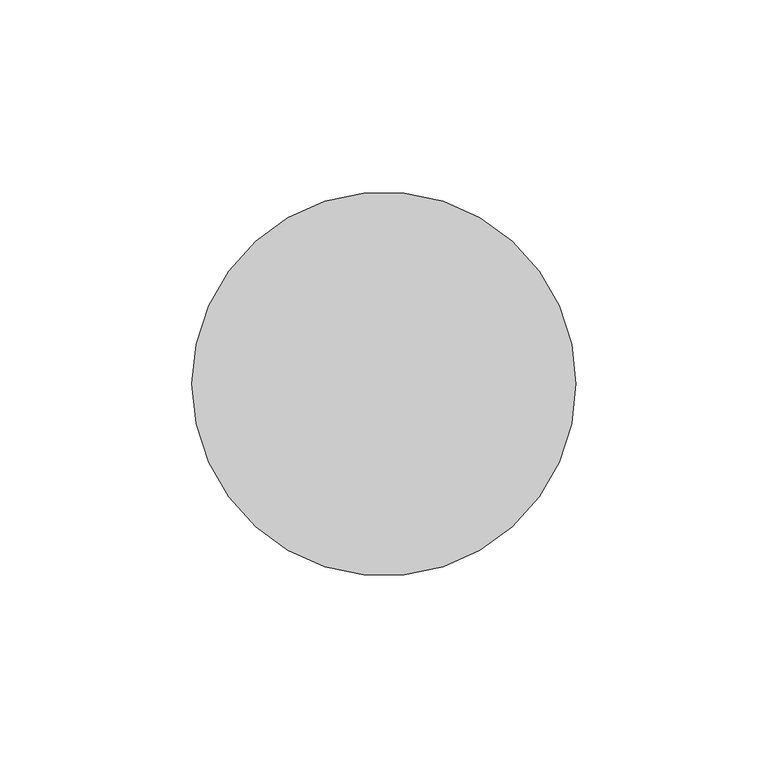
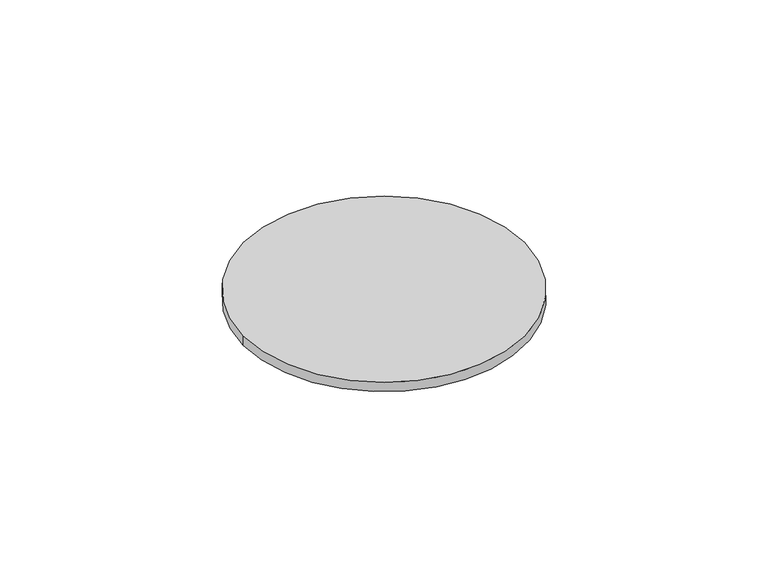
"""IFC4 building model written with IfcOpenShell, lengths in millimetres: pipe fitting geometry, Z_Amanco Esgoto Caixa Sif Grelha Vórtice Redonda (Nested) : Plástica Branca."""

from ifc_helpers import new_model, si_unit, point, frame, origin, origin_2d, place, context, project, spatial, circle_curve, trimmed, segment, composite_curve, outline, extrude, source, transform, mapped, element, save


def pipe_fitting_5ac48150(model_context):
    return source(origin(), model_context, "Body", "SweptSolid", [
        extrude(outline(composite_curve([segment(trimmed(circle_curve(origin_2d(), 50.0), [point((-50.0, 0.0))], [point((50.0, 0.0))], False, "CARTESIAN"), True, "CONTINUOUS"), segment(trimmed(circle_curve(origin_2d(), 50.0), [point((50.0, 0.0))], [point((-50.0, 0.0))], False, "CARTESIAN"), True, "CONTINUOUS")], self_intersect=False)), frame((0.0, 0.0, -3.5), z_axis=(0.0, 0.0, 1.0), x_axis=(1.0, 0.0, 0.0)), (0.0, 0.0, 1.0), 3.6),
    ])


if __name__ == "__main__":
    model = new_model("IFC4")
    model_context = context("Model", 3, world=origin())
    ifc_project = project(units=[si_unit("LENGTHUNIT", "METRE", prefix="MILLI")], contexts=[model_context])
    site = spatial("IfcSite", under=ifc_project)
    building = spatial("IfcBuilding", under=site)
    placement = place(None, origin())
    pipe_fitting_shape = pipe_fitting_5ac48150(model_context)
    element("IfcPipeFitting", 1, ObjectType="Z_Amanco Esgoto Caixa Sif Grelha Vórtice Redonda (Nested) : Plástica Branca", at=placement, inside=building, context=model_context, shape_type="MappedRepresentation", body=[
        mapped(pipe_fitting_shape, transform((0.0, 0.0, 0.0), x_axis=(1.0, 0.0, 0.0), y_axis=(0.0, 1.0, 0.0), z_axis=(0.0, 0.0, 1.0))),
    ])
    save(model, "model.ifc")
